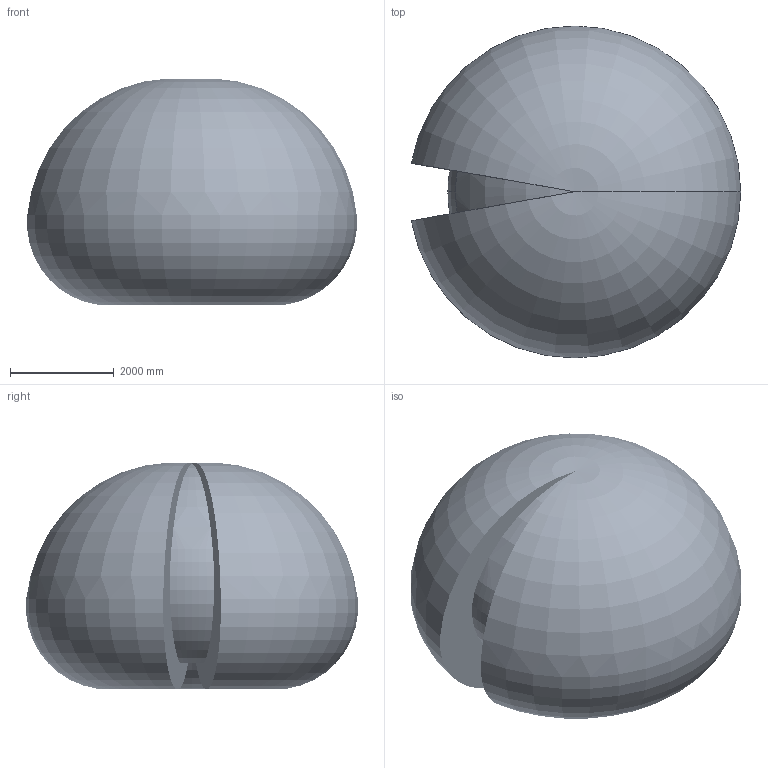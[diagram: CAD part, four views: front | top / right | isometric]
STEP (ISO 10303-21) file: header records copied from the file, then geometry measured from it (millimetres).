
FILE_DESCRIPTION (( 'STEP AP214' ), '1' );
FILE_NAME ('IRB6720_160kg-320_OC_01_ASM_CAD.step', '2026-06-10T10:41:09', ( '' ), ( '' ), 'SwSTEP 2.0', 'SolidWorks 2024', '' );
FILE_SCHEMA (( 'AUTOMOTIVE_DESIGN' ));
Length unit declared in the file: millimetre
Products named in the file (14): IRB6720_160kg-320_OC_01_LINK05_CAD; IRB6720_160kg-320_OC_00_LINK03_CAD; IRB6720_160kg-320_OC_01_ASM_CAD; IRB6720_160kg-320_OC_00_LINK01_CAD; IRB6720_160kg-320_OC_00_LINK03m_CABLE; IRB6720_160kg-320_OC_00_Working-space; IRB6720_160kg-320_OC_00_LINK02m_CABLE; IRB6720_160kg-320_OC_00_LINK02_CAD; IRB6720_160kg-320_OC_00_LINK04_CAD; IRB6720_160kg-320_OC_00_LINK01m_CABLE; IRB6720_160kg-320_OC_00_CYL_CAD; IRB6720_160kg-320_OC_00_BASE_CAD; IRB6720_160kg-320_OC_00_ROD_CAD; IRB6720_160kg-320_OC_00_LINK06_CAD
Assembly tree (13 placements, depth 2):
  IRB6720_160kg-320_OC_01_ASM_CAD
    IRB6720_160kg-320_OC_00_BASE_CAD
    IRB6720_160kg-320_OC_00_CYL_CAD
    IRB6720_160kg-320_OC_00_LINK01_CAD
    IRB6720_160kg-320_OC_00_ROD_CAD
    IRB6720_160kg-320_OC_00_LINK02_CAD
    IRB6720_160kg-320_OC_00_LINK03_CAD
    IRB6720_160kg-320_OC_00_LINK04_CAD
    IRB6720_160kg-320_OC_01_LINK05_CAD
    IRB6720_160kg-320_OC_00_LINK06_CAD
    IRB6720_160kg-320_OC_00_LINK01m_CABLE
    IRB6720_160kg-320_OC_00_LINK02m_CABLE
    IRB6720_160kg-320_OC_00_LINK03m_CABLE
    IRB6720_160kg-320_OC_00_Working-space
Bounding box: 6341.15 x 6389.68 x 4367.91 mm (x, y, z)
Volume: 93425742344.7 mm3; surface area: 145924316.4 mm2
Topology: 14 solids, 27 shells, 7619 faces, 19387 edges, 12354 vertices
Faces by surface type: plane 3521, cylinder 1986, cone 1217, bspline 543, torus 312, sphere 40
Entity records: 340100 total; most frequent: CARTESIAN_POINT 162574, ORIENTED_EDGE 38436, DIRECTION 34700, EDGE_CURVE 19218, AXIS2_PLACEMENT_3D 12738, VERTEX_POINT 12352, LINE 9224, VECTOR 9224
